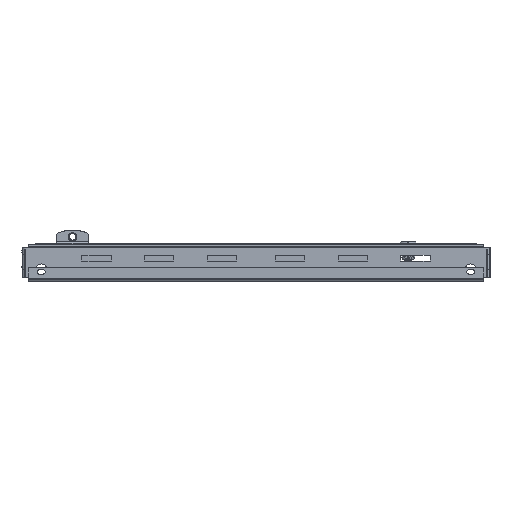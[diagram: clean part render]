
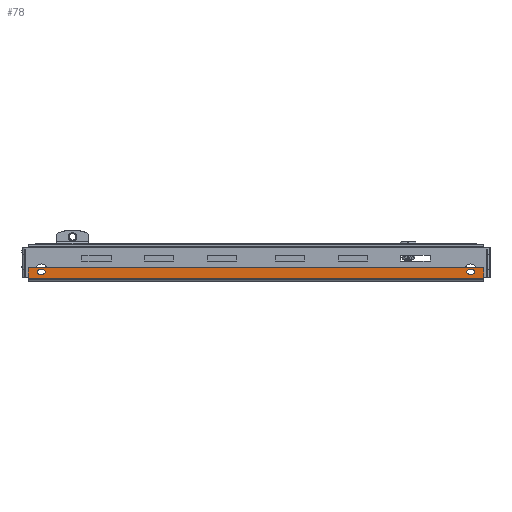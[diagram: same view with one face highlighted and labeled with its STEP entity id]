
A CAD part, front view. The second image highlights one B-rep face of the part: STEP entity #78.
In plain terms, the highlighted planar face has unit normal (0, -1, 0) as drawn and (0, 0, -1) by its records, which use the part's own axes.
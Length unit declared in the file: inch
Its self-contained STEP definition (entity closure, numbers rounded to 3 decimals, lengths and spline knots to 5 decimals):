
#78 = ADVANCED_FACE ( 'NONE', ( #21022, #21018, #21025 ), #9234, .T. ) ;
#827 = LINE ( 'NONE', #7772, #828 ) ;
#828 = VECTOR ( 'NONE', #7773, 39.37008 ) ;
#1011 = CARTESIAN_POINT ( 'NONE',  ( 28.3235, 1.745, 0. ) ) ;
#1014 = DIRECTION ( 'NONE',  ( 0., 0., 1. ) ) ;
#1015 = DIRECTION ( 'NONE',  ( 1., 0., 0. ) ) ;
#1151 = CIRCLE ( 'NONE', #14671, 0.1405 ) ;
#1165 = CIRCLE ( 'NONE', #14682, 0.1405 ) ;
#1558 = LINE ( 'NONE', #7733, #1572 ) ;
#1570 = LINE ( 'NONE', #7740, #1571 ) ;
#1571 = VECTOR ( 'NONE', #7741, 39.37008 ) ;
#1572 = VECTOR ( 'NONE', #7743, 39.37008 ) ;
#1573 = LINE ( 'NONE', #7758, #1581 ) ;
#1574 = VECTOR ( 'NONE', #7770, 39.37008 ) ;
#1575 = CIRCLE ( 'NONE', #14360, 0.1405 ) ;
#1576 = LINE ( 'NONE', #7749, #1577 ) ;
#1577 = VECTOR ( 'NONE', #7750, 39.37008 ) ;
#1578 = LINE ( 'NONE', #7751, #1579 ) ;
#1579 = VECTOR ( 'NONE', #7752, 39.37008 ) ;
#1580 = LINE ( 'NONE', #7762, #1583 ) ;
#1581 = VECTOR ( 'NONE', #7759, 39.37008 ) ;
#1582 = CIRCLE ( 'NONE', #14363, 0.1405 ) ;
#1583 = VECTOR ( 'NONE', #7763, 39.37008 ) ;
#1584 = CIRCLE ( 'NONE', #14362, 0.1405 ) ;
#1585 = LINE ( 'NONE', #7769, #1574 ) ;
#1586 = CIRCLE ( 'NONE', #14365, 0.1405 ) ;
#1621 = CARTESIAN_POINT ( 'NONE',  ( 1.3165, 1.745, 0. ) ) ;
#1623 = DIRECTION ( 'NONE',  ( 0., 0., 1. ) ) ;
#1624 = DIRECTION ( 'NONE',  ( 1., 0., 0. ) ) ;
#6163 = CARTESIAN_POINT ( 'NONE',  ( 1.3165, 1.8855, 0. ) ) ;
#6867 = CARTESIAN_POINT ( 'NONE',  ( 1.457, 1.745, 0. ) ) ;
#7733 = CARTESIAN_POINT ( 'NONE',  ( 29.021, 2.368, 0. ) ) ;
#7739 = CARTESIAN_POINT ( 'NONE',  ( 28.1045, 1.745, 0. ) ) ;
#7740 = CARTESIAN_POINT ( 'NONE',  ( 29.421, 1.476, 0. ) ) ;
#7741 = DIRECTION ( 'NONE',  ( -1., 0., 0. ) ) ;
#7742 = CARTESIAN_POINT ( 'NONE',  ( 28.3235, 1.745, 0. ) ) ;
#7743 = DIRECTION ( 'NONE',  ( 0., -1., 0. ) ) ;
#7744 = CARTESIAN_POINT ( 'NONE',  ( 1.0975, 1.745, 0. ) ) ;
#7745 = DIRECTION ( 'NONE',  ( 0., 0., 1. ) ) ;
#7746 = DIRECTION ( 'NONE',  ( 1., 0., 0. ) ) ;
#7749 = CARTESIAN_POINT ( 'NONE',  ( 28.1045, 1.8855, 0. ) ) ;
#7750 = DIRECTION ( 'NONE',  ( -1., 0., 0. ) ) ;
#7751 = CARTESIAN_POINT ( 'NONE',  ( 28.1045, 1.6045, 0. ) ) ;
#7752 = DIRECTION ( 'NONE',  ( 1., 0., 0. ) ) ;
#7753 = CARTESIAN_POINT ( 'NONE',  ( 1.3165, 1.745, 0. ) ) ;
#7754 = DIRECTION ( 'NONE',  ( 0., 0., 1. ) ) ;
#7755 = DIRECTION ( 'NONE',  ( 1., 0., 0. ) ) ;
#7756 = DIRECTION ( 'NONE',  ( 0., 0., 1. ) ) ;
#7757 = DIRECTION ( 'NONE',  ( 1., 0., 0. ) ) ;
#7758 = CARTESIAN_POINT ( 'NONE',  ( 1.0975, 1.6045, 0. ) ) ;
#7759 = DIRECTION ( 'NONE',  ( 1., 0., 0. ) ) ;
#7760 = DIRECTION ( 'NONE',  ( 0., 0., 1. ) ) ;
#7761 = DIRECTION ( 'NONE',  ( 1., 0., 0. ) ) ;
#7762 = CARTESIAN_POINT ( 'NONE',  ( 1.0975, 1.8855, 0. ) ) ;
#7763 = DIRECTION ( 'NONE',  ( -1., 0., 0. ) ) ;
#7769 = CARTESIAN_POINT ( 'NONE',  ( 0.4, 2.368, 0. ) ) ;
#7770 = DIRECTION ( 'NONE',  ( 0., 1., 0. ) ) ;
#7772 = CARTESIAN_POINT ( 'NONE',  ( 29.421, 2.16, 0. ) ) ;
#7773 = DIRECTION ( 'NONE',  ( -1., 0., 0. ) ) ;
#8207 = VERTEX_POINT ( 'NONE', #20998 ) ;
#8208 = VERTEX_POINT ( 'NONE', #20994 ) ;
#8210 = VERTEX_POINT ( 'NONE', #20898 ) ;
#8214 = VERTEX_POINT ( 'NONE', #20719 ) ;
#8261 = VERTEX_POINT ( 'NONE', #20960 ) ;
#8299 = VERTEX_POINT ( 'NONE', #20922 ) ;
#8302 = VERTEX_POINT ( 'NONE', #20919 ) ;
#8485 = VERTEX_POINT ( 'NONE', #20734 ) ;
#8507 = VERTEX_POINT ( 'NONE', #20708 ) ;
#8529 = VERTEX_POINT ( 'NONE', #20682 ) ;
#8531 = VERTEX_POINT ( 'NONE', #20679 ) ;
#8539 = VERTEX_POINT ( 'NONE', #20670 ) ;
#9232 = DIRECTION ( 'NONE',  ( 0., 1., 0. ) ) ;
#9233 = DIRECTION ( 'NONE',  ( 0., 0., -1. ) ) ;
#9234 = PLANE ( 'NONE',  #13536 ) ;
#9239 = CARTESIAN_POINT ( 'NONE',  ( 29.421, 2.368, 0. ) ) ;
#11862 = EDGE_CURVE ( 'NONE', #8207, #8210, #1151, .T. ) ;
#11873 = EDGE_CURVE ( 'NONE', #12592, #18539, #1165, .T. ) ;
#12592 = VERTEX_POINT ( 'NONE', #6867 ) ;
#13536 = AXIS2_PLACEMENT_3D ( 'NONE', #9239, #9233, #9232 ) ;
#13771 = ORIENTED_EDGE ( 'NONE', *, *, #22913, .T. ) ;
#13772 = ORIENTED_EDGE ( 'NONE', *, *, #22912, .T. ) ;
#13773 = ORIENTED_EDGE ( 'NONE', *, *, #22909, .T. ) ;
#13774 = ORIENTED_EDGE ( 'NONE', *, *, #11862, .T. ) ;
#13775 = ORIENTED_EDGE ( 'NONE', *, *, #22911, .T. ) ;
#13776 = ORIENTED_EDGE ( 'NONE', *, *, #22914, .T. ) ;
#13777 = ORIENTED_EDGE ( 'NONE', *, *, #22915, .T. ) ;
#13778 = ORIENTED_EDGE ( 'NONE', *, *, #22916, .T. ) ;
#13779 = ORIENTED_EDGE ( 'NONE', *, *, #11873, .T. ) ;
#14360 = AXIS2_PLACEMENT_3D ( 'NONE', #7742, #7745, #7746 ) ;
#14362 = AXIS2_PLACEMENT_3D ( 'NONE', #7744, #7756, #7757 ) ;
#14363 = AXIS2_PLACEMENT_3D ( 'NONE', #7739, #7754, #7755 ) ;
#14365 = AXIS2_PLACEMENT_3D ( 'NONE', #7753, #7760, #7761 ) ;
#14402 = EDGE_LOOP ( 'NONE', ( #14557, #14558, #14559, #14560 ) ) ;
#14555 = ORIENTED_EDGE ( 'NONE', *, *, #22917, .T. ) ;
#14557 = ORIENTED_EDGE ( 'NONE', *, *, #22908, .T. ) ;
#14558 = ORIENTED_EDGE ( 'NONE', *, *, #22907, .T. ) ;
#14559 = ORIENTED_EDGE ( 'NONE', *, *, #22920, .T. ) ;
#14560 = ORIENTED_EDGE ( 'NONE', *, *, #22921, .F. ) ;
#14671 = AXIS2_PLACEMENT_3D ( 'NONE', #1011, #1014, #1015 ) ;
#14682 = AXIS2_PLACEMENT_3D ( 'NONE', #1621, #1623, #1624 ) ;
#18539 = VERTEX_POINT ( 'NONE', #6163 ) ;
#20112 = EDGE_LOOP ( 'NONE', ( #13771, #13772, #13773, #13774, #13775 ) ) ;
#20670 = CARTESIAN_POINT ( 'NONE',  ( 1.0975, 1.6045, 0. ) ) ;
#20679 = CARTESIAN_POINT ( 'NONE',  ( 28.1045, 1.6045, 0. ) ) ;
#20682 = CARTESIAN_POINT ( 'NONE',  ( 1.0975, 1.8855, 0. ) ) ;
#20708 = CARTESIAN_POINT ( 'NONE',  ( 0.4, 1.476, 0. ) ) ;
#20719 = CARTESIAN_POINT ( 'NONE',  ( 28.1045, 1.8855, 0. ) ) ;
#20734 = CARTESIAN_POINT ( 'NONE',  ( 28.3235, 1.6045, 0. ) ) ;
#20898 = CARTESIAN_POINT ( 'NONE',  ( 28.3235, 1.8855, 0. ) ) ;
#20919 = CARTESIAN_POINT ( 'NONE',  ( 29.021, 1.476, 0. ) ) ;
#20922 = CARTESIAN_POINT ( 'NONE',  ( 0.4, 2.16, 0. ) ) ;
#20960 = CARTESIAN_POINT ( 'NONE',  ( 1.3165, 1.6045, 0. ) ) ;
#20994 = CARTESIAN_POINT ( 'NONE',  ( 29.021, 2.16, 0. ) ) ;
#20998 = CARTESIAN_POINT ( 'NONE',  ( 28.464, 1.745, 0. ) ) ;
#21018 = FACE_BOUND ( 'NONE', #21602, .T. ) ;
#21022 = FACE_BOUND ( 'NONE', #20112, .T. ) ;
#21025 = FACE_OUTER_BOUND ( 'NONE', #14402, .T. ) ;
#21602 = EDGE_LOOP ( 'NONE', ( #13776, #13777, #13778, #13779, #14555 ) ) ;
#22907 = EDGE_CURVE ( 'NONE', #8302, #8507, #1570, .T. ) ;
#22908 = EDGE_CURVE ( 'NONE', #8208, #8302, #1558, .T. ) ;
#22909 = EDGE_CURVE ( 'NONE', #8485, #8207, #1575, .T. ) ;
#22911 = EDGE_CURVE ( 'NONE', #8210, #8214, #1576, .T. ) ;
#22912 = EDGE_CURVE ( 'NONE', #8531, #8485, #1578, .T. ) ;
#22913 = EDGE_CURVE ( 'NONE', #8214, #8531, #1582, .T. ) ;
#22914 = EDGE_CURVE ( 'NONE', #8529, #8539, #1584, .T. ) ;
#22915 = EDGE_CURVE ( 'NONE', #8539, #8261, #1573, .T. ) ;
#22916 = EDGE_CURVE ( 'NONE', #8261, #12592, #1586, .T. ) ;
#22917 = EDGE_CURVE ( 'NONE', #18539, #8529, #1580, .T. ) ;
#22920 = EDGE_CURVE ( 'NONE', #8507, #8299, #1585, .T. ) ;
#22921 = EDGE_CURVE ( 'NONE', #8208, #8299, #827, .T. ) ;
